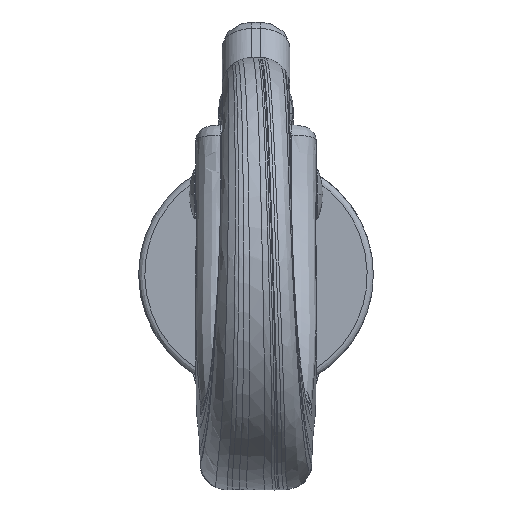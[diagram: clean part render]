
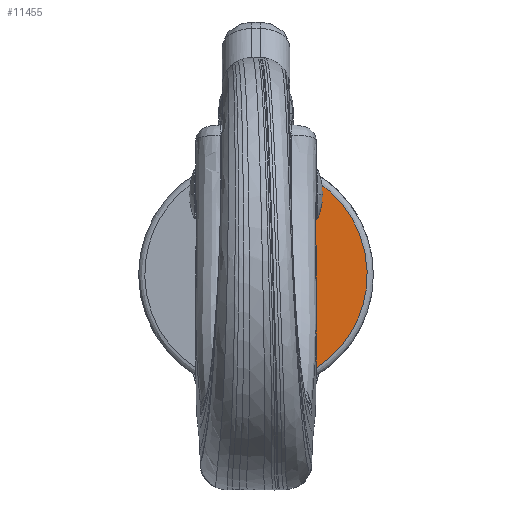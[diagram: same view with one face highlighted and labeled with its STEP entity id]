
A CAD part, top view. The second image highlights one B-rep face of the part: STEP entity #11455.
In plain terms, the highlighted planar face has unit normal (0, 0, 1).
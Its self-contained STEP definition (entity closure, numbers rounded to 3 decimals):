
#240 = B_SPLINE_CURVE_WITH_KNOTS ( 'NONE', 3,
 ( #241, #242, #243, #244 ),
 .UNSPECIFIED., .F., .F.,
 ( 4, 4 ),
 ( 0., 1. ),
 .UNSPECIFIED. ) ;
#241 = CARTESIAN_POINT ( 'NONE',  ( 4.812, 7.252, 4. ) ) ;
#242 = CARTESIAN_POINT ( 'NONE',  ( 4.811, 7.383, 4.001 ) ) ;
#243 = CARTESIAN_POINT ( 'NONE',  ( 4.784, 7.524, 4. ) ) ;
#244 = CARTESIAN_POINT ( 'NONE',  ( 4.727, 7.659, 4. ) ) ;
#16649 = CARTESIAN_POINT ( 'NONE',  ( 4.839, -6.448, 4. ) ) ;
#16934 = B_SPLINE_CURVE_WITH_KNOTS ( 'NONE', 3,
 ( #16935, #16936, #16937, #16938, #16939, #16940, #16941, #16942, #16943, #16950, #16951, #16952, #16953, #16954, #16955, #16956, #16957, #16958, #16959, #16960, #16961, #16962, #16963, #16964, #16965, #16969, #16970, #16971, #16972, #16973, #16974, #16975, #16976 ),
 .UNSPECIFIED., .F., .F.,
 ( 4, 1, 1, 1, 1, 2, 2, 1, 1, 1, 1, 1, 1, 2, 2, 1, 1, 1, 1, 1, 1, 1, 2, 2, 4 ),
 ( 0., 0.125, 0.188, 0.219, 0.234, 0.242, 0.25, 0.375, 0.438, 0.469, 0.484, 0.492, 0.496, 0.498, 0.5, 0.625, 0.687, 0.719, 0.734, 0.742, 0.746, 0.748, 0.749, 0.75, 1. ),
 .UNSPECIFIED. ) ;
#16935 = CARTESIAN_POINT ( 'NONE',  ( 4.812, 7.252, 4. ) ) ;
#16936 = CARTESIAN_POINT ( 'NONE',  ( 4.821, 6.518, 4. ) ) ;
#16937 = CARTESIAN_POINT ( 'NONE',  ( 4.833, 5.513, 4. ) ) ;
#16938 = CARTESIAN_POINT ( 'NONE',  ( 4.842, 4.509, 4. ) ) ;
#16939 = CARTESIAN_POINT ( 'NONE',  ( 4.846, 4.049, 4. ) ) ;
#16940 = CARTESIAN_POINT ( 'NONE',  ( 4.848, 3.829, 4. ) ) ;
#16941 = CARTESIAN_POINT ( 'NONE',  ( 4.848, 3.737, 4. ) ) ;
#16942 = CARTESIAN_POINT ( 'NONE',  ( 4.849, 3.676, 4. ) ) ;
#16943 = CARTESIAN_POINT ( 'NONE',  ( 4.849, 3.648, 4. ) ) ;
#16950 = CARTESIAN_POINT ( 'NONE',  ( 4.853, 3.11, 4. ) ) ;
#16951 = CARTESIAN_POINT ( 'NONE',  ( 4.857, 2.347, 4. ) ) ;
#16952 = CARTESIAN_POINT ( 'NONE',  ( 4.859, 1.45, 4. ) ) ;
#16953 = CARTESIAN_POINT ( 'NONE',  ( 4.86, 1., 4. ) ) ;
#16954 = CARTESIAN_POINT ( 'NONE',  ( 4.86, 0.775, 4. ) ) ;
#16955 = CARTESIAN_POINT ( 'NONE',  ( 4.86, 0.662, 4. ) ) ;
#16956 = CARTESIAN_POINT ( 'NONE',  ( 4.86, 0.605, 4. ) ) ;
#16957 = CARTESIAN_POINT ( 'NONE',  ( 4.86, 0.581, 4. ) ) ;
#16958 = CARTESIAN_POINT ( 'NONE',  ( 4.86, 0.565, 4. ) ) ;
#16959 = CARTESIAN_POINT ( 'NONE',  ( 4.86, 0.556, 4. ) ) ;
#16960 = CARTESIAN_POINT ( 'NONE',  ( 4.86, 0.118, 4. ) ) ;
#16961 = CARTESIAN_POINT ( 'NONE',  ( 4.859, -0.587, 4. ) ) ;
#16962 = CARTESIAN_POINT ( 'NONE',  ( 4.857, -1.517, 4. ) ) ;
#16963 = CARTESIAN_POINT ( 'NONE',  ( 4.855, -2.008, 4. ) ) ;
#16964 = CARTESIAN_POINT ( 'NONE',  ( 4.854, -2.26, 4. ) ) ;
#16965 = CARTESIAN_POINT ( 'NONE',  ( 4.853, -2.387, 4. ) ) ;
#16969 = CARTESIAN_POINT ( 'NONE',  ( 4.853, -2.452, 4. ) ) ;
#16970 = CARTESIAN_POINT ( 'NONE',  ( 4.853, -2.484, 4. ) ) ;
#16971 = CARTESIAN_POINT ( 'NONE',  ( 4.853, -2.498, 4. ) ) ;
#16972 = CARTESIAN_POINT ( 'NONE',  ( 4.853, -2.507, 4. ) ) ;
#16973 = CARTESIAN_POINT ( 'NONE',  ( 4.853, -2.51, 4. ) ) ;
#16974 = CARTESIAN_POINT ( 'NONE',  ( 4.846, -4.206, 4. ) ) ;
#16975 = CARTESIAN_POINT ( 'NONE',  ( 4.841, -5.516, 4. ) ) ;
#16976 = CARTESIAN_POINT ( 'NONE',  ( 4.839, -6.448, 4. ) ) ;
#599 = EDGE_CURVE ( 'NONE', #1505, #14882, #240, .T. ) ;
#916 = CARTESIAN_POINT ( 'NONE',  ( 4.812, 7.252, 4. ) ) ;
#1505 = VERTEX_POINT ( 'NONE', #916 ) ;
#18055 = FACE_OUTER_BOUND ( 'NONE', #11207, .T. ) ;
#18056 = PLANE ( 'NONE',  #18057 ) ;
#18057 = AXIS2_PLACEMENT_3D ( 'NONE', #18058, #18059, #18060 ) ;
#18058 = CARTESIAN_POINT ( 'NONE',  ( 3.363, 7.978, 4. ) ) ;
#18059 = DIRECTION ( 'NONE',  ( 0., 0., 1. ) ) ;
#18060 = DIRECTION ( 'NONE',  ( 0., -1., 0. ) ) ;
#6931 = CARTESIAN_POINT ( 'NONE',  ( 3.505, -8.29, 4. ) ) ;
#7422 =( BOUNDED_CURVE ( )  B_SPLINE_CURVE ( 3, ( #7423, #7424, #7425, #7426 ),
 .UNSPECIFIED., .F., .T. ) 
 B_SPLINE_CURVE_WITH_KNOTS ( ( 4, 4 ),
 ( 0., 1. ),
 .UNSPECIFIED. ) 
 CURVE ( )  GEOMETRIC_REPRESENTATION_ITEM ( )  RATIONAL_B_SPLINE_CURVE ( ( 1., 0.639, 0.639, 1. ) ) 
 REPRESENTATION_ITEM ( '' )  );
#7423 = CARTESIAN_POINT ( 'NONE',  ( 4.727, 7.659, 4. ) ) ;
#7424 = CARTESIAN_POINT ( 'NONE',  ( 11.826, 3.277, 4. ) ) ;
#7425 = CARTESIAN_POINT ( 'NONE',  ( 11.189, -5.041, 4. ) ) ;
#7426 = CARTESIAN_POINT ( 'NONE',  ( 3.505, -8.29, 4. ) ) ;
#8093 = ORIENTED_EDGE ( 'NONE', *, *, #599, .F. ) ;
#8472 = CARTESIAN_POINT ( 'NONE',  ( 4.727, 7.659, 4. ) ) ;
#8621 = ORIENTED_EDGE ( 'NONE', *, *, #13980, .F. ) ;
#9147 = EDGE_CURVE ( 'NONE', #10068, #13752, #15410, .T. ) ;
#9534 = ORIENTED_EDGE ( 'NONE', *, *, #9147, .T. ) ;
#10068 = VERTEX_POINT ( 'NONE', #16649 ) ;
#10297 = EDGE_CURVE ( 'NONE', #1505, #10068, #16934, .T. ) ;
#10677 = ORIENTED_EDGE ( 'NONE', *, *, #10297, .T. ) ;
#11207 = EDGE_LOOP ( 'NONE', ( #10677, #9534, #8621, #8093 ) ) ;
#11455 = ADVANCED_FACE ( 'NONE', ( #18055 ), #18056, .T. ) ;
#13752 = VERTEX_POINT ( 'NONE', #6931 ) ;
#13980 = EDGE_CURVE ( 'NONE', #14882, #13752, #7422, .T. ) ;
#14882 = VERTEX_POINT ( 'NONE', #8472 ) ;
#15410 = B_SPLINE_CURVE_WITH_KNOTS ( 'NONE', 3,
 ( #15411, #15412, #15413, #15414, #15415, #15416, #15417, #15418, #15419, #15420, #15421, #15422, #15423, #15428, #15429, #15430, #15431, #15432, #15433, #15434, #15435, #15436, #15437, #15438 ),
 .UNSPECIFIED., .F., .F.,
 ( 4, 1, 1, 2, 2, 1, 1, 1, 2, 2, 1, 1, 1, 2, 2, 4 ),
 ( 0., 0.125, 0.187, 0.219, 0.25, 0.375, 0.438, 0.469, 0.484, 0.5, 0.625, 0.688, 0.719, 0.734, 0.75, 1. ),
 .UNSPECIFIED. ) ;
#15411 = CARTESIAN_POINT ( 'NONE',  ( 4.839, -6.448, 4. ) ) ;
#15412 = CARTESIAN_POINT ( 'NONE',  ( 4.839, -6.525, 4. ) ) ;
#15413 = CARTESIAN_POINT ( 'NONE',  ( 4.83, -6.641, 4. ) ) ;
#15414 = CARTESIAN_POINT ( 'NONE',  ( 4.805, -6.775, 4. ) ) ;
#15415 = CARTESIAN_POINT ( 'NONE',  ( 4.791, -6.832, 4. ) ) ;
#15416 = CARTESIAN_POINT ( 'NONE',  ( 4.781, -6.87, 4. ) ) ;
#15417 = CARTESIAN_POINT ( 'NONE',  ( 4.776, -6.888, 4. ) ) ;
#15418 = CARTESIAN_POINT ( 'NONE',  ( 4.745, -6.99, 4. ) ) ;
#15419 = CARTESIAN_POINT ( 'NONE',  ( 4.698, -7.111, 4. ) ) ;
#15420 = CARTESIAN_POINT ( 'NONE',  ( 4.627, -7.249, 4. ) ) ;
#15421 = CARTESIAN_POINT ( 'NONE',  ( 4.587, -7.317, 4. ) ) ;
#15422 = CARTESIAN_POINT ( 'NONE',  ( 4.569, -7.347, 4. ) ) ;
#15423 = CARTESIAN_POINT ( 'NONE',  ( 4.557, -7.366, 4. ) ) ;
#15428 = CARTESIAN_POINT ( 'NONE',  ( 4.551, -7.375, 4. ) ) ;
#15429 = CARTESIAN_POINT ( 'NONE',  ( 4.489, -7.47, 4. ) ) ;
#15430 = CARTESIAN_POINT ( 'NONE',  ( 4.396, -7.594, 4. ) ) ;
#15431 = CARTESIAN_POINT ( 'NONE',  ( 4.269, -7.73, 4. ) ) ;
#15432 = CARTESIAN_POINT ( 'NONE',  ( 4.202, -7.796, 4. ) ) ;
#15433 = CARTESIAN_POINT ( 'NONE',  ( 4.172, -7.824, 4. ) ) ;
#15434 = CARTESIAN_POINT ( 'NONE',  ( 4.151, -7.843, 4. ) ) ;
#15435 = CARTESIAN_POINT ( 'NONE',  ( 4.142, -7.851, 4. ) ) ;
#15436 = CARTESIAN_POINT ( 'NONE',  ( 3.948, -8.025, 4. ) ) ;
#15437 = CARTESIAN_POINT ( 'NONE',  ( 3.739, -8.167, 4. ) ) ;
#15438 = CARTESIAN_POINT ( 'NONE',  ( 3.505, -8.29, 4. ) ) ;
